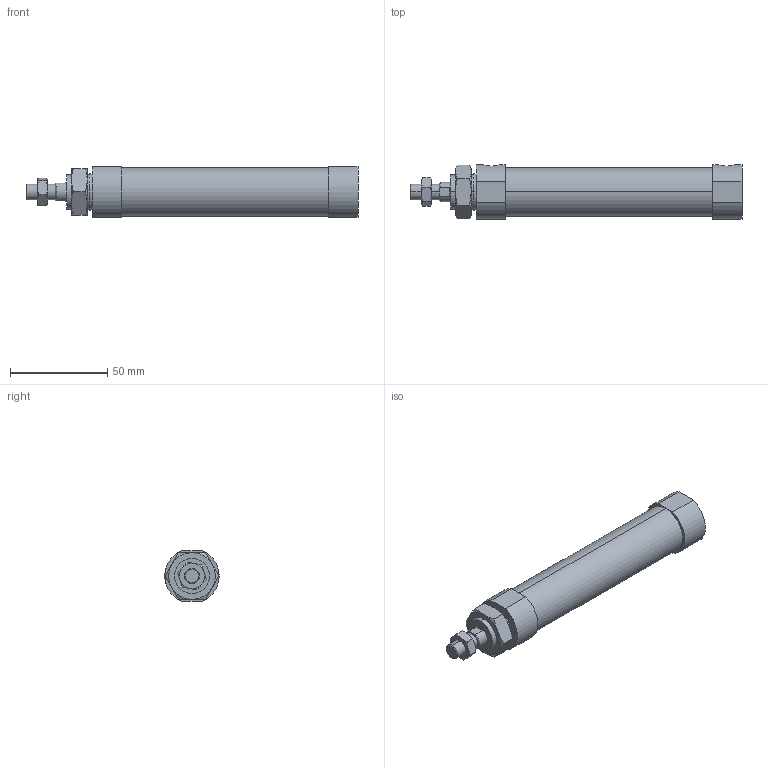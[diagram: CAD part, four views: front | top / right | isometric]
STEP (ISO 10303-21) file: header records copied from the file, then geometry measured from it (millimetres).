
FILE_DESCRIPTION (( 'STEP AP203' ), '1' );
FILE_NAME ('JGND2-20-75-N.STEP', '2016-08-04T02:28:48', ( '' ), ( '' ), 'SwSTEP 2.0', 'SolidWorks 2014', '' );
FILE_SCHEMA (( 'CONFIG_CONTROL_DESIGN' ));
Length unit declared in the file: millimetre
Products named in the file (4): JGND2-20-75-N; J#2-20-75(P)
Assembly tree (3 placements, depth 2):
  JGND2-20-75-N
    J#2-20-75(P)
    (unnamed)
    (unnamed)
Bounding box: 171 x 28 x 26 mm (x, y, z)
Volume: 76407.5 mm3; surface area: 16609.4 mm2
Topology: 3 solids, 3 shells, 84 faces, 182 edges, 112 vertices
Faces by surface type: plane 34, torus 24, cylinder 22, cone 4
Entity records: 3040 total; most frequent: CARTESIAN_POINT 840, DIRECTION 378, ORIENTED_EDGE 364, EDGE_CURVE 182, AXIS2_PLACEMENT_3D 162, VERTEX_POINT 112, EDGE_LOOP 96, ADVANCED_FACE 84
